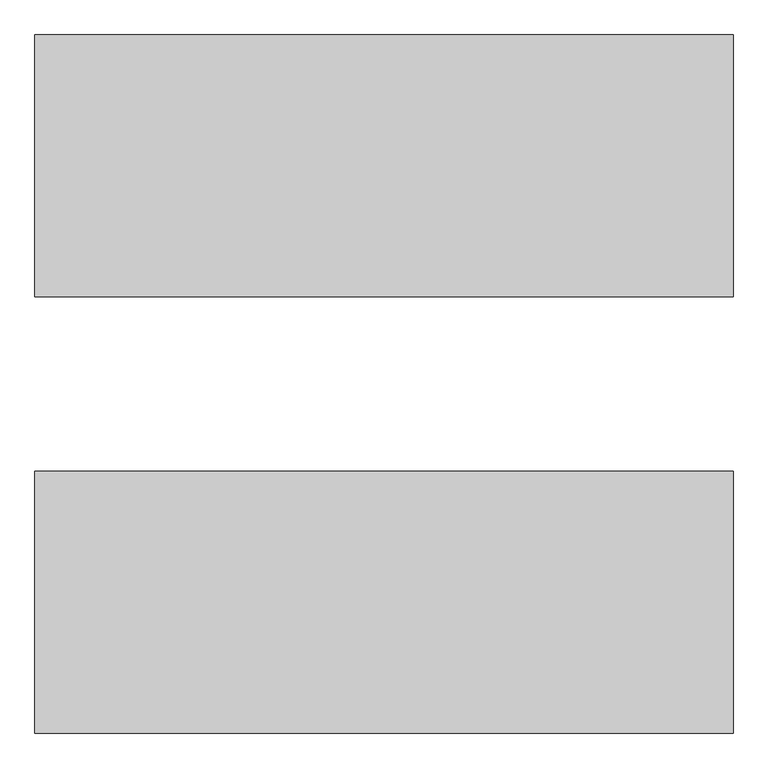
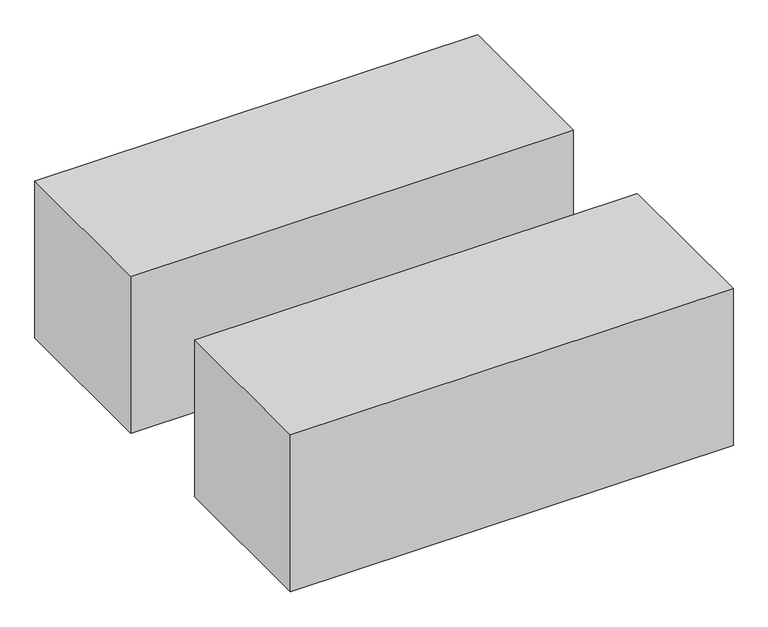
"""IFC4 building model written with IfcOpenShell, lengths in millimetres: proxy geometry, 機械基礎_下駄(衛生) : 機械基礎_下駄(衛生)."""

from ifc_helpers import new_model, si_unit, origin, origin_with_axes, place, context, project, spatial, polyline, outline, extrude, source, transform, mapped, element, save


def specialty_equipment_dd2b1215(model_context):
    return source(origin(), model_context, "Body", "SweptSolid", [
        extrude(outline(polyline([(800.0, -700.0), (800.0, -1300.0), (-800.0, -1300.0), (-800.0, -700.0), (800.0, -700.0)])), origin_with_axes(), (0.0, 0.0, 1.0), 600.0),
        extrude(outline(polyline([(800.0, 300.0), (800.0, -300.0), (-800.0, -300.0), (-800.0, 300.0), (800.0, 300.0)])), origin_with_axes(), (0.0, 0.0, 1.0), 600.0),
    ])


if __name__ == "__main__":
    model = new_model("IFC4")
    model_context = context("Model", 3, world=origin())
    ifc_project = project(units=[si_unit("LENGTHUNIT", "METRE", prefix="MILLI")], contexts=[model_context])
    site = spatial("IfcSite", under=ifc_project)
    building = spatial("IfcBuilding", under=site)
    placement = place(None, origin())
    specialty_equipment_shape = specialty_equipment_dd2b1215(model_context)
    element("IfcBuildingElementProxy", 1, Name="機械基礎_下駄(衛生) : 機械基礎_下駄(衛生)", ObjectType="機械基礎_下駄(衛生) : 機械基礎_下駄(衛生)", at=placement, inside=building, context=model_context, shape_type="MappedRepresentation", body=[
        mapped(specialty_equipment_shape, transform((0.0, 0.0, 0.0), x_axis=(1.0, 0.0, 0.0), y_axis=(0.0, 1.0, 0.0), z_axis=(0.0, 0.0, 1.0))),
    ])
    save(model, "model.ifc")
